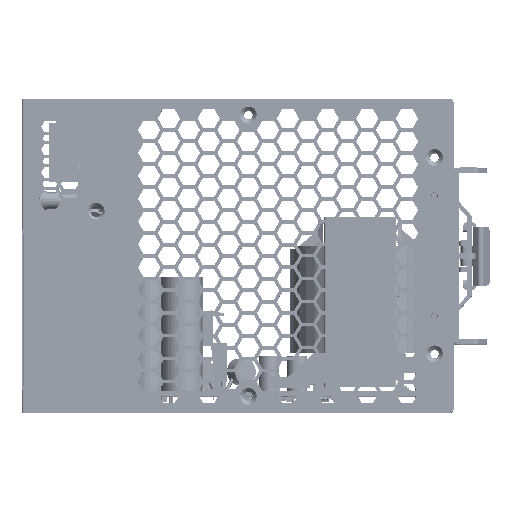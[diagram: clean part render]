
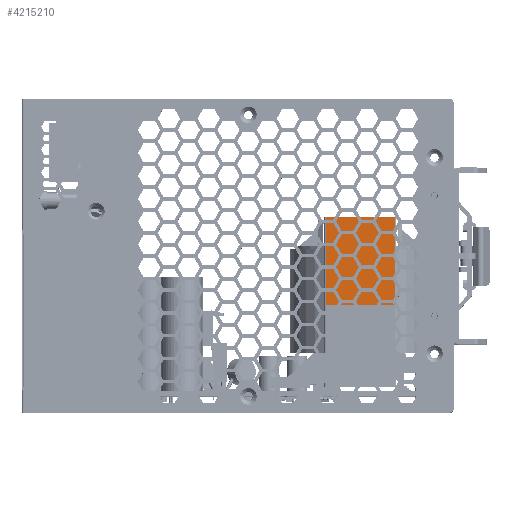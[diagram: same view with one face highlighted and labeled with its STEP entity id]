
A CAD part, top view. The second image highlights one B-rep face of the part: STEP entity #4215210.
In plain terms, the highlighted planar face has unit normal (0, 0, 1) as drawn and (1, 0, 0) by its records, which use the part's own axes.
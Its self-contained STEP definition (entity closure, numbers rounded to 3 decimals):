
#4210080=CARTESIAN_POINT('',(122.334,251.088,-29.));
#4210090=VERTEX_POINT('',#4210080);
#4210120=CARTESIAN_POINT('',(122.334,251.088,-29.));
#4210130=DIRECTION('',(0.,-1.,0.));
#4210140=VECTOR('',#4210130,1.);
#4210150=LINE('',#4210120,#4210140);
#4210160=CARTESIAN_POINT('',(122.334,230.088,-29.));
#4210170=VERTEX_POINT('',#4210160);
#4210180=EDGE_CURVE('',#4210090,#4210170,#4210150,.T.);
#4214470=CARTESIAN_POINT('',(122.334,230.088,-55.75));
#4214480=VERTEX_POINT('',#4214470);
#4214510=CARTESIAN_POINT('',(122.334,251.088,-55.75));
#4214520=DIRECTION('',(0.,-1.,0.));
#4214530=VECTOR('',#4214520,1.);
#4214540=LINE('',#4214510,#4214530);
#4214550=CARTESIAN_POINT('',(122.334,251.088,-55.75));
#4214560=VERTEX_POINT('',#4214550);
#4214570=EDGE_CURVE('',#4214560,#4214480,#4214540,.T.);
#4214960=CARTESIAN_POINT('',(122.334,230.088,-55.75));
#4214970=DIRECTION('',(0.,0.,1.));
#4214980=VECTOR('',#4214970,1.);
#4214990=LINE('',#4214960,#4214980);
#4215000=EDGE_CURVE('',#4214480,#4210170,#4214990,.T.);
#4215050=CARTESIAN_POINT('',(122.334,229.588,-31.));
#4215060=DIRECTION('',(1.,0.,0.));
#4215070=DIRECTION('',(0.,1.,0.));
#4215080=AXIS2_PLACEMENT_3D('',#4215050,#4215060,#4215070);
#4215090=PLANE('',#4215080);
#4215100=ORIENTED_EDGE('',*,*,#4210180,.T.);
#4215110=CARTESIAN_POINT('',(122.334,251.088,-29.));
#4215120=DIRECTION('',(0.,0.,-1.));
#4215130=VECTOR('',#4215120,1.);
#4215140=LINE('',#4215110,#4215130);
#4215150=EDGE_CURVE('',#4210090,#4214560,#4215140,.T.);
#4215160=ORIENTED_EDGE('',*,*,#4215150,.F.);
#4215170=ORIENTED_EDGE('',*,*,#4214570,.F.);
#4215180=ORIENTED_EDGE('',*,*,#4215000,.F.);
#4215190=EDGE_LOOP('',(#4215180,#4215170,#4215160,#4215100));
#4215200=FACE_OUTER_BOUND('',#4215190,.T.);
#4215210=ADVANCED_FACE('',(#4215200),#4215090,.T.);
